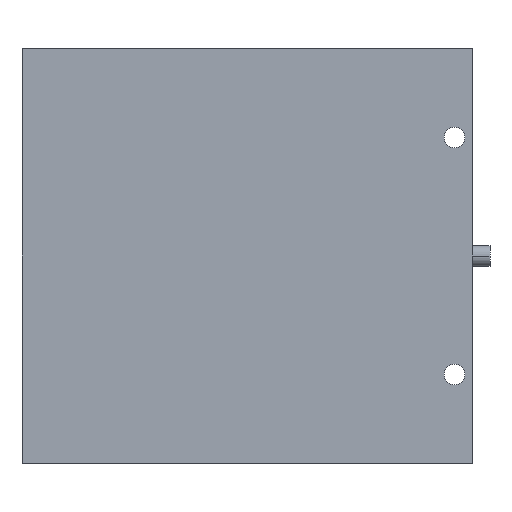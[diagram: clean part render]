
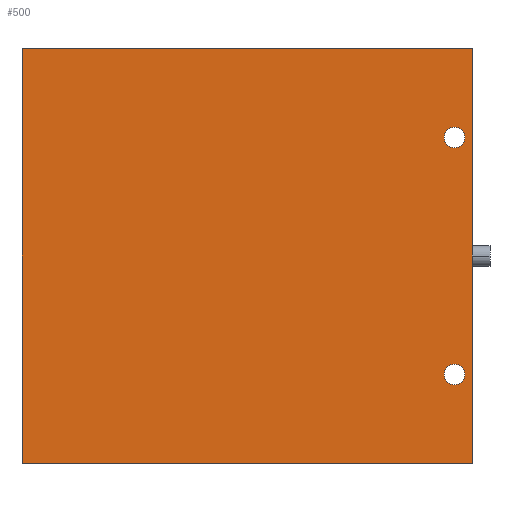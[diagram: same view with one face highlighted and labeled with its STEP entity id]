
A CAD part, front view. The second image highlights one B-rep face of the part: STEP entity #500.
In plain terms, the highlighted planar face has unit normal (0, -1, 0).
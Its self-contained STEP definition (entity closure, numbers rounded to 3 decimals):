
#2 = VERTEX_POINT ( 'NONE', #448 ) ;
#61 = LINE ( 'NONE', #539, #118 ) ;
#65 = EDGE_CURVE ( 'NONE', #129, #2, #306, .T. ) ;
#66 = ORIENTED_EDGE ( 'NONE', *, *, #456, .F. ) ;
#71 = EDGE_CURVE ( 'NONE', #145, #523, #532, .T. ) ;
#72 = VERTEX_POINT ( 'NONE', #351 ) ;
#75 = EDGE_LOOP ( 'NONE', ( #408, #377, #66, #298 ) ) ;
#83 = CARTESIAN_POINT ( 'NONE',  ( 35., 0., -20. ) ) ;
#85 = CARTESIAN_POINT ( 'NONE',  ( 33.25, 0., -20. ) ) ;
#114 = DIRECTION ( 'NONE',  ( 0., 1., 0. ) ) ;
#118 = VECTOR ( 'NONE', #275, 1000. ) ;
#123 = DIRECTION ( 'NONE',  ( 0., 0., 1. ) ) ;
#125 = DIRECTION ( 'NONE',  ( 1., 0., 0. ) ) ;
#128 = EDGE_LOOP ( 'NONE', ( #503, #301 ) ) ;
#129 = VERTEX_POINT ( 'NONE', #405 ) ;
#137 = DIRECTION ( 'NONE',  ( 0., 0., 1. ) ) ;
#145 = VERTEX_POINT ( 'NONE', #645 ) ;
#148 = CARTESIAN_POINT ( 'NONE',  ( 38., 0., -35. ) ) ;
#163 = VECTOR ( 'NONE', #614, 1000. ) ;
#164 = FACE_BOUND ( 'NONE', #128, .T. ) ;
#198 = EDGE_CURVE ( 'NONE', #212, #396, #299, .T. ) ;
#201 = VECTOR ( 'NONE', #125, 1000. ) ;
#212 = VERTEX_POINT ( 'NONE', #85 ) ;
#234 = EDGE_LOOP ( 'NONE', ( #291, #248 ) ) ;
#238 = AXIS2_PLACEMENT_3D ( 'NONE', #83, #650, #137 ) ;
#243 = CIRCLE ( 'NONE', #312, 1.75 ) ;
#248 = ORIENTED_EDGE ( 'NONE', *, *, #65, .T. ) ;
#257 = LINE ( 'NONE', #318, #201 ) ;
#275 = DIRECTION ( 'NONE',  ( -1., 0., 0. ) ) ;
#291 = ORIENTED_EDGE ( 'NONE', *, *, #329, .T. ) ;
#297 = DIRECTION ( 'NONE',  ( 0., 1., 0. ) ) ;
#298 = ORIENTED_EDGE ( 'NONE', *, *, #443, .F. ) ;
#299 = CIRCLE ( 'NONE', #238, 1.75 ) ;
#301 = ORIENTED_EDGE ( 'NONE', *, *, #490, .T. ) ;
#303 = CARTESIAN_POINT ( 'NONE',  ( 35., 0., -20. ) ) ;
#305 = PLANE ( 'NONE',  #553 ) ;
#306 = CIRCLE ( 'NONE', #647, 1.75 ) ;
#308 = DIRECTION ( 'NONE',  ( 0., 0., 1. ) ) ;
#312 = AXIS2_PLACEMENT_3D ( 'NONE', #303, #114, #574 ) ;
#318 = CARTESIAN_POINT ( 'NONE',  ( -38., 0., 35. ) ) ;
#323 = CARTESIAN_POINT ( 'NONE',  ( -38., 0., -35. ) ) ;
#325 = CARTESIAN_POINT ( 'NONE',  ( -38., 0., -35. ) ) ;
#329 = EDGE_CURVE ( 'NONE', #2, #129, #471, .T. ) ;
#346 = CARTESIAN_POINT ( 'NONE',  ( 35., 0., 20. ) ) ;
#348 = CARTESIAN_POINT ( 'NONE',  ( 35., 0., 20. ) ) ;
#351 = CARTESIAN_POINT ( 'NONE',  ( -38., 0., 35. ) ) ;
#353 = AXIS2_PLACEMENT_3D ( 'NONE', #348, #608, #668 ) ;
#355 = FACE_BOUND ( 'NONE', #234, .T. ) ;
#372 = DIRECTION ( 'NONE',  ( 0., 1., 0. ) ) ;
#377 = ORIENTED_EDGE ( 'NONE', *, *, #420, .F. ) ;
#396 = VERTEX_POINT ( 'NONE', #512 ) ;
#405 = CARTESIAN_POINT ( 'NONE',  ( 36.75, 0., 20. ) ) ;
#408 = ORIENTED_EDGE ( 'NONE', *, *, #71, .F. ) ;
#420 = EDGE_CURVE ( 'NONE', #72, #145, #257, .T. ) ;
#443 = EDGE_CURVE ( 'NONE', #523, #664, #61, .T. ) ;
#448 = CARTESIAN_POINT ( 'NONE',  ( 33.25, 0., 20. ) ) ;
#456 = EDGE_CURVE ( 'NONE', #664, #72, #652, .T. ) ;
#461 = VECTOR ( 'NONE', #123, 1000. ) ;
#469 = CARTESIAN_POINT ( 'NONE',  ( 38., 0., -35. ) ) ;
#471 = CIRCLE ( 'NONE', #353, 1.75 ) ;
#490 = EDGE_CURVE ( 'NONE', #396, #212, #243, .T. ) ;
#500 = ADVANCED_FACE ( 'NONE', ( #355, #164, #626 ), #305, .F. ) ;
#503 = ORIENTED_EDGE ( 'NONE', *, *, #198, .T. ) ;
#512 = CARTESIAN_POINT ( 'NONE',  ( 36.75, 0., -20. ) ) ;
#523 = VERTEX_POINT ( 'NONE', #469 ) ;
#532 = LINE ( 'NONE', #148, #163 ) ;
#539 = CARTESIAN_POINT ( 'NONE',  ( -38., 0., -35. ) ) ;
#553 = AXIS2_PLACEMENT_3D ( 'NONE', #625, #372, #308 ) ;
#574 = DIRECTION ( 'NONE',  ( 0., 0., 1. ) ) ;
#608 = DIRECTION ( 'NONE',  ( 0., 1., 0. ) ) ;
#614 = DIRECTION ( 'NONE',  ( 0., 0., -1. ) ) ;
#625 = CARTESIAN_POINT ( 'NONE',  ( 0., 0., 0. ) ) ;
#626 = FACE_OUTER_BOUND ( 'NONE', #75, .T. ) ;
#645 = CARTESIAN_POINT ( 'NONE',  ( 38., 0., 35. ) ) ;
#647 = AXIS2_PLACEMENT_3D ( 'NONE', #346, #297, #665 ) ;
#650 = DIRECTION ( 'NONE',  ( 0., 1., 0. ) ) ;
#652 = LINE ( 'NONE', #325, #461 ) ;
#664 = VERTEX_POINT ( 'NONE', #323 ) ;
#665 = DIRECTION ( 'NONE',  ( 0., 0., 1. ) ) ;
#668 = DIRECTION ( 'NONE',  ( 0., 0., 1. ) ) ;
